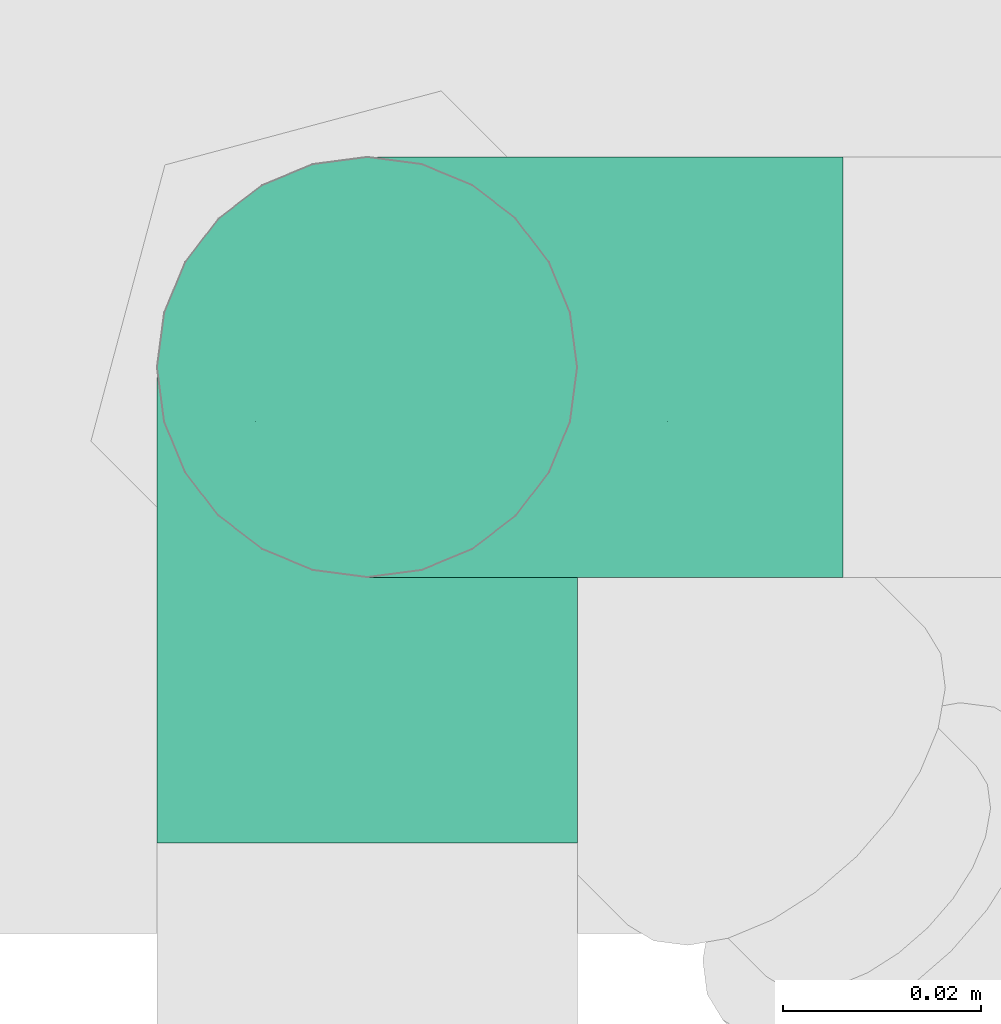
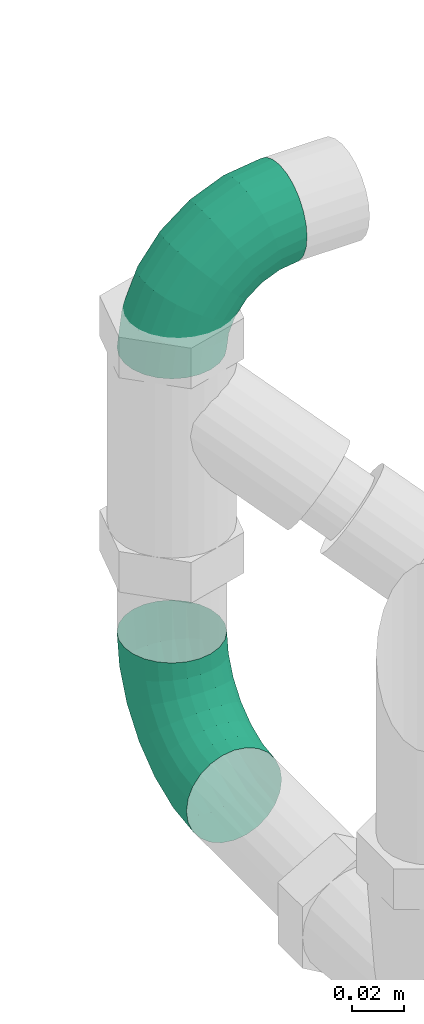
# One storey, part 256 of 374: 2 flow segments.
"""IFC2X3 building model written with IfcOpenShell, lengths in metres."""

from ifc_helpers import new_model, si_unit, direction, origin, place, context, subcontext, project, spatial, open_shell, surface_model, source, transform, mapped, element, save


model = new_model("IFC2X3")

# Units and contexts
model_context = context("Model", 3, precision=1e-05, world=origin(), true_north=direction((-0.4480736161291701, 0.8939966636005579)))
body_context = subcontext(model_context, "Body", "Model", "MODEL_VIEW")
ifc_project = project(units=[si_unit("LENGTHUNIT", "METRE"), si_unit("AREAUNIT", "SQUARE_METRE"), si_unit("VOLUMEUNIT", "CUBIC_METRE"), si_unit("PLANEANGLEUNIT", "RADIAN"), si_unit("THERMODYNAMICTEMPERATUREUNIT", "KELVIN"), si_unit("MASSUNIT", "GRAM", prefix="KILO"), si_unit("TIMEUNIT", "SECOND")], contexts=[model_context])

# Site, building, storey
site_placement = place(None, origin())
site = spatial("IfcSite", under=ifc_project, at=site_placement, Name="Site 1", CompositionType="ELEMENT")
building_placement = place(site_placement, origin())
building = spatial("IfcBuilding", under=site, at=building_placement, Name="Undefined", CompositionType="ELEMENT")
storey_placement = place(building_placement, origin())
storey = spatial("IfcBuildingStorey", under=building, at=storey_placement, Name="Rez de chauss\x8ee", CompositionType="ELEMENT", Elevation=0.0)

# Flow segments
shared_shape_1 = source(origin(), body_context, "Body", "SurfaceModel", [
    surface_model("IfcFaceBasedSurfaceModel", [(0.01806482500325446, 7.105427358e-15, 0.0), (0.017970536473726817, 0.005533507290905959, 0.0), (9.428852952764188e-05, 0.005533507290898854, 0.0), (0.0, 0.0, 0.0), (-0.017172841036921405, 0.00613233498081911, -0.004587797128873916), (-0.01744928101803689, 0.0006051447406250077, -0.004636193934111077), (-0.03265412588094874, 0.007289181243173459, -0.013450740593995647), (-0.0330938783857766, 0.0017741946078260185, -0.013592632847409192), (-0.045294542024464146, 0.008925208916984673, -0.02598483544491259), (-0.045867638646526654, 0.0034274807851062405, -0.02625895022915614), (-0.054232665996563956, 0.010928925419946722, -0.041335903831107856), (-0.05490005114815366, 0.005452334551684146, -0.04177195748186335), (-0.05885937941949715, 0.013163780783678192, -0.05845779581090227), (-0.059575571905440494, 0.007710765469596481, -0.05907446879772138), (0.01769409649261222, 0.010875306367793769, -0.0014203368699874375), (0.00037072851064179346, 0.010875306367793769, -0.0014203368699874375), (-0.016362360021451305, 0.011455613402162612, -0.005866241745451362), (-0.03136483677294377, 0.012576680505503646, -0.014455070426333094), (-0.04361430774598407, 0.014162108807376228, -0.026601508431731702), (-0.05227599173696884, 0.016103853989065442, -0.0414777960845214), (-0.05675960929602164, 0.018269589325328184, -0.05807013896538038), (0.017254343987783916, 0.015661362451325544, -0.0041642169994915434), (0.0008104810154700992, 0.015661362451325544, -0.004164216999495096), (-0.01507307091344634, 0.016212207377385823, -0.008384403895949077), (-0.029313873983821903, 0.01727635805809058, -0.016537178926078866), (-0.04094144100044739, 0.01878129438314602, -0.02806694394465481), (-0.049163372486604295, 0.02062445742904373, -0.042187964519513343), (-0.05341935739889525, 0.02268023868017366, -0.05793791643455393), (0.016681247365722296, 0.01956551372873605, -0.008044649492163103), (0.001383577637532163, 0.01956551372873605, -0.008044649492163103), (-0.01339283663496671, 0.020077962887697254, -0.011970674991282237), (-0.026641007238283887, 0.021067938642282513, -0.01955517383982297), (-0.03745809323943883, 0.02246797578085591, -0.03028127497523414), (-0.04510692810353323, 0.0241826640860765, -0.04341801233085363), (-0.04906625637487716, 0.026095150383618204, -0.05807013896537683), (0.016013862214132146, 0.022321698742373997, -0.012797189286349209), (0.0020509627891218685, 0.022321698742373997, -0.012797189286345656), (-0.011436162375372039, 0.02278943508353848, -0.016380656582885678), (-0.023528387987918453, 0.02369303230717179, -0.023303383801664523), (-0.03340164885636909, 0.024970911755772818, -0.03309359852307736), (-0.040383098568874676, 0.026535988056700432, -0.04508411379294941), (-0.04399696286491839, 0.028281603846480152, -0.05845779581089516), (0.015297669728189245, 0.023742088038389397, -0.018097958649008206), (0.00276715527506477, 0.023742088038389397, -0.018097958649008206), (-0.009336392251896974, 0.024161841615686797, -0.021313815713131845), (-0.02018813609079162, 0.02497274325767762, -0.0275263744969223), (-0.029048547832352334, 0.02611953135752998, -0.03631225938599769), (-0.03531380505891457, 0.027524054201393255, -0.04707272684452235), (-0.0385569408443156, 0.02909059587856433, -0.05907446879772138), (0.014581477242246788, 0.023729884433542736, -0.02358571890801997), (0.0034833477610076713, 0.023729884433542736, -0.02358571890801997), (-0.007236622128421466, 0.024101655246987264, -0.026433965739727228), (-0.016847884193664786, 0.02481986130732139, -0.03193635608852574), (-0.02469544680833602, 0.02583555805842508, -0.03971791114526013), (-0.0302445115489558, 0.027079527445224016, -0.04924833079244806), (-0.03311691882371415, 0.02846699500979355, -0.059878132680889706), (0.013914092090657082, 0.02228591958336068, -0.02888648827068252), (0.004150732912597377, 0.022285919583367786, -0.028886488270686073), (-0.005279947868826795, 0.022612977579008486, -0.031392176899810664), (-0.013735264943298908, 0.023244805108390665, -0.03623279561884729), (-0.020639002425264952, 0.02413834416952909, -0.04307846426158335), (-0.025520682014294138, 0.025232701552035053, -0.051462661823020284), (-0.028047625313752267, 0.026453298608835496, -0.060814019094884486), (0.013340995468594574, 0.01950859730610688, -0.03363902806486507), (0.0047238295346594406, 0.01950859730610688, -0.033639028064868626), (-0.0035997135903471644, 0.019797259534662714, -0.035850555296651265), (-0.011062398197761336, 0.0203549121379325, -0.04012289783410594), (-0.017155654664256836, 0.021143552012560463, -0.04616490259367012), (-0.02146423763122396, 0.022109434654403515, -0.05356481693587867), (-0.02369452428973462, 0.023186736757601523, -0.06181834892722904), (0.012901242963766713, 0.015587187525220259, -0.037519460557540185), (0.005163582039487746, 0.015587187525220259, -0.03751946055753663), (-0.0023104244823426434, 0.015846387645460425, -0.03950526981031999), (-0.009011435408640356, 0.016347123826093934, -0.043341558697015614), (-0.01448278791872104, 0.017055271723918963, -0.048766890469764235), (-0.018351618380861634, 0.017922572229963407, -0.05541153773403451), (-0.02035427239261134, 0.018889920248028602, -0.06282267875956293), (0.012624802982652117, 0.010788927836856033, -0.040263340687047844), (0.005440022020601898, 0.010788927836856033, -0.0402633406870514), (-0.0014999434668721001, 0.011029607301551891, -0.04210725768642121), (-0.007722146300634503, 0.01149456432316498, -0.045669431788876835), (-0.012802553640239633, 0.012152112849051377, -0.05070710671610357), (-0.0163949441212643, 0.012957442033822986, -0.056876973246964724), (-0.018254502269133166, 0.013855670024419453, -0.06375856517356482), (0.012530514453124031, 0.005440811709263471, -0.041683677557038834), (0.005534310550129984, 0.0054408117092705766, -0.041683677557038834), (-0.0012235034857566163, 0.005675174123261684, -0.04347919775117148), (-0.007282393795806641, 0.006127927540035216, -0.046947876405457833), (-0.012229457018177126, 0.0067682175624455, -0.05185332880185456), (-0.015727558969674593, 0.007552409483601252, -0.05786125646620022), (-0.01753830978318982, 0.008427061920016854, -0.0645622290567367), (0.012624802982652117, -9.269558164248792e-05, -0.04168367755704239), (0.005440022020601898, -9.269558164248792e-05, -0.04168367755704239), (-0.0014999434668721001, 0.00014798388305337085, -0.0435275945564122), (-0.007722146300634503, 0.0006129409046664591, -0.047089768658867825), (-0.012802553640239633, 0.001270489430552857, -0.05212744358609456), (-0.0163949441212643, 0.002075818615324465, -0.058297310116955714), (-0.018254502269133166, 0.0029740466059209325, -0.06517890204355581), (0.012901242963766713, -0.005434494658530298, -0.0402633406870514), (0.005163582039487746, -0.005434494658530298, -0.040263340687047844), (-0.0023104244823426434, -0.005175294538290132, -0.0422491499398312), (-0.009011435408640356, -0.004674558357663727, -0.046085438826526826), (-0.01448278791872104, -0.0039664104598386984, -0.051510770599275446), (-0.018351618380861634, -0.0030991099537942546, -0.05815541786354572), (-0.02035427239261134, -0.0021317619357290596, -0.06556655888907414), (0.013340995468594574, -0.010220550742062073, -0.03751946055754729), (0.0047238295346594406, -0.010220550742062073, -0.03751946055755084), (-0.0035997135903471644, -0.009931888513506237, -0.03973098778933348), (-0.011062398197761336, -0.009374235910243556, -0.04400333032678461), (-0.017155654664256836, -0.00858559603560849, -0.05004533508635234), (-0.02146423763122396, -0.007619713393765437, -0.057445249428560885), (-0.02369452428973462, -0.006542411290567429, -0.06569878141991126), (0.013914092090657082, -0.01412470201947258, -0.03363902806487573), (0.004150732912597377, -0.014124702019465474, -0.033639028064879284), (-0.005279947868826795, -0.013797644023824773, -0.036144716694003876), (-0.013735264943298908, -0.013165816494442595, -0.0409853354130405), (-0.020639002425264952, -0.012272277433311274, -0.04783100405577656), (-0.025520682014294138, -0.011177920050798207, -0.05621520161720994), (-0.028047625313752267, -0.009957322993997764, -0.0655665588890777), (0.014581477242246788, -0.01688088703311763, -0.028886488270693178), (0.0034833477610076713, -0.01688088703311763, -0.028886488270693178), (-0.007236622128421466, -0.016509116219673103, -0.031734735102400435), (-0.016847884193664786, -0.015790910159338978, -0.03723712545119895), (-0.02469544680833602, -0.014775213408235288, -0.04501868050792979), (-0.0302445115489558, -0.01353124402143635, -0.054549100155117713), (-0.03311691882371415, -0.012143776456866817, -0.06517890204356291), (0.015297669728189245, -0.01830127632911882, -0.02358571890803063), (0.00276715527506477, -0.01830127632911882, -0.02358571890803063), (-0.009336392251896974, -0.01788152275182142, -0.026801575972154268), (-0.02018813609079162, -0.017070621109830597, -0.033014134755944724), (-0.029048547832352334, -0.01592383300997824, -0.04180001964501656), (-0.03531380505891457, -0.014519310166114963, -0.05256048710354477), (-0.0385569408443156, -0.012952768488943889, -0.06456222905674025), (0.016013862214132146, -0.01828907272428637, -0.018097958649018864), (0.0020509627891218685, -0.01828907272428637, -0.018097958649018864), (-0.011436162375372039, -0.01782133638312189, -0.021681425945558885), (-0.023528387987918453, -0.016917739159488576, -0.02860415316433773), (-0.03340164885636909, -0.01563985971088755, -0.038394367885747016), (-0.040383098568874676, -0.014074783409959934, -0.05038488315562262), (-0.04399696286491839, -0.012329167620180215, -0.06375856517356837), (0.016681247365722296, -0.01684510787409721, -0.012797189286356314), (0.001383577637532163, -0.01684510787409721, -0.012797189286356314), (-0.01339283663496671, -0.016332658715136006, -0.01672321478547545), (-0.026641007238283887, -0.015342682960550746, -0.02430771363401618), (-0.03745809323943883, -0.01394264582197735, -0.03503381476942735), (-0.04510692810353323, -0.01222795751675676, -0.04817055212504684), (-0.04906625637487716, -0.010315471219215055, -0.06282267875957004), (0.017254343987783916, -0.014067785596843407, -0.008044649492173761), (0.0008104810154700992, -0.014067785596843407, -0.008044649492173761), (-0.01507307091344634, -0.013516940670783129, -0.012264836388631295), (-0.029313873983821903, -0.012452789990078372, -0.020417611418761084), (-0.04094144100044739, -0.010947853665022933, -0.03194737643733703), (-0.049163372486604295, -0.009104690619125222, -0.04606839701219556), (-0.05341935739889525, -0.007048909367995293, -0.06181834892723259), (0.01769409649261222, -0.010146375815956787, -0.004164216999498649), (0.00037072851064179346, -0.010146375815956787, -0.004164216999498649), (-0.016362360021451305, -0.009566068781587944, -0.008610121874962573), (-0.03136483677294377, -0.008445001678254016, -0.017198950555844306), (-0.04361430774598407, -0.006859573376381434, -0.029345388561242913), (-0.05227599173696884, -0.00491782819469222, -0.04422167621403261), (-0.05675960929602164, -0.002752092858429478, -0.060814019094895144), (0.017970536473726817, -0.0053481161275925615, -0.0014203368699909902), (9.428852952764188e-05, -0.005348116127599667, -0.001420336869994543), (-0.017172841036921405, -0.004749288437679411, -0.006008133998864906), (-0.03265412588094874, -0.0035924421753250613, -0.014871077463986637), (-0.045294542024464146, -0.001956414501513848, -0.02740517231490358), (-0.054232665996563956, 4.7302001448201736e-05, -0.04275624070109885), (-0.05885937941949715, 0.002282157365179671, -0.05987813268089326)], [open_shell([[[0, 1, 2, 3]], [[3, 2, 4, 5]], [[5, 4, 6, 7]], [[7, 6, 8, 9]], [[9, 8, 10, 11]], [[11, 10, 12, 13]], [[1, 14, 15, 2]], [[2, 15, 16, 4]], [[4, 16, 17, 6]], [[6, 17, 18, 8]], [[8, 18, 19, 10]], [[10, 19, 20, 12]], [[14, 21, 22, 15]], [[15, 22, 23, 16]], [[16, 23, 24, 17]], [[17, 24, 25, 18]], [[18, 25, 26, 19]], [[19, 26, 27, 20]], [[21, 28, 29, 22]], [[22, 29, 30, 23]], [[23, 30, 31, 24]], [[24, 31, 32, 25]], [[25, 32, 33, 26]], [[26, 33, 34, 27]], [[28, 35, 36, 29]], [[29, 36, 37, 30]], [[30, 37, 38, 31]], [[31, 38, 39, 32]], [[32, 39, 40, 33]], [[33, 40, 41, 34]], [[35, 42, 43, 36]], [[36, 43, 44, 37]], [[37, 44, 45, 38]], [[38, 45, 46, 39]], [[39, 46, 47, 40]], [[40, 47, 48, 41]], [[42, 49, 50, 43]], [[43, 50, 51, 44]], [[44, 51, 52, 45]], [[45, 52, 53, 46]], [[46, 53, 54, 47]], [[47, 54, 55, 48]], [[49, 56, 57, 50]], [[50, 57, 58, 51]], [[51, 58, 59, 52]], [[52, 59, 60, 53]], [[53, 60, 61, 54]], [[54, 61, 62, 55]], [[56, 63, 64, 57]], [[57, 64, 65, 58]], [[58, 65, 66, 59]], [[59, 66, 67, 60]], [[60, 67, 68, 61]], [[61, 68, 69, 62]], [[63, 70, 71, 64]], [[64, 71, 72, 65]], [[65, 72, 73, 66]], [[66, 73, 74, 67]], [[67, 74, 75, 68]], [[68, 75, 76, 69]], [[70, 77, 78, 71]], [[71, 78, 79, 72]], [[72, 79, 80, 73]], [[73, 80, 81, 74]], [[74, 81, 82, 75]], [[75, 82, 83, 76]], [[77, 84, 85, 78]], [[78, 85, 86, 79]], [[79, 86, 87, 80]], [[80, 87, 88, 81]], [[81, 88, 89, 82]], [[82, 89, 90, 83]], [[84, 91, 92, 85]], [[85, 92, 93, 86]], [[86, 93, 94, 87]], [[87, 94, 95, 88]], [[88, 95, 96, 89]], [[89, 96, 97, 90]], [[91, 98, 99, 92]], [[92, 99, 100, 93]], [[93, 100, 101, 94]], [[94, 101, 102, 95]], [[95, 102, 103, 96]], [[96, 103, 104, 97]], [[98, 105, 106, 99]], [[99, 106, 107, 100]], [[100, 107, 108, 101]], [[101, 108, 109, 102]], [[102, 109, 110, 103]], [[103, 110, 111, 104]], [[105, 112, 113, 106]], [[106, 113, 114, 107]], [[107, 114, 115, 108]], [[108, 115, 116, 109]], [[109, 116, 117, 110]], [[110, 117, 118, 111]], [[112, 119, 120, 113]], [[113, 120, 121, 114]], [[114, 121, 122, 115]], [[115, 122, 123, 116]], [[116, 123, 124, 117]], [[117, 124, 125, 118]], [[119, 126, 127, 120]], [[120, 127, 128, 121]], [[121, 128, 129, 122]], [[122, 129, 130, 123]], [[123, 130, 131, 124]], [[124, 131, 132, 125]], [[126, 133, 134, 127]], [[127, 134, 135, 128]], [[128, 135, 136, 129]], [[129, 136, 137, 130]], [[130, 137, 138, 131]], [[131, 138, 139, 132]], [[133, 140, 141, 134]], [[134, 141, 142, 135]], [[135, 142, 143, 136]], [[136, 143, 144, 137]], [[137, 144, 145, 138]], [[138, 145, 146, 139]], [[140, 147, 148, 141]], [[141, 148, 149, 142]], [[142, 149, 150, 143]], [[143, 150, 151, 144]], [[144, 151, 152, 145]], [[145, 152, 153, 146]], [[147, 154, 155, 148]], [[148, 155, 156, 149]], [[149, 156, 157, 150]], [[150, 157, 158, 151]], [[151, 158, 159, 152]], [[152, 159, 160, 153]], [[154, 161, 162, 155]], [[155, 162, 163, 156]], [[156, 163, 164, 157]], [[157, 164, 165, 158]], [[158, 165, 166, 159]], [[159, 166, 167, 160]], [[161, 0, 3, 162]], [[162, 3, 5, 163]], [[163, 5, 7, 164]], [[164, 7, 9, 165]], [[165, 9, 11, 166]], [[166, 11, 13, 167]]])]),
])
flow_segment_1_placement = place(storey_placement, origin())
element("IfcFlowSegment", 1, at=flow_segment_1_placement, inside=storey, Name="Tube coudé", ObjectType="Tube coudé", context=body_context, shape_type="MappedRepresentation", body=[
    mapped(shared_shape_1, transform((52.45756201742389, 10.936879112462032, 0.8018409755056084), x_axis=(0.0, 0.13052619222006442, 0.9914448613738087), y_axis=(0.9915887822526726, -0.12832103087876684, 0.016893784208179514), z_axis=(0.12942830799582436, 0.983105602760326, -0.1294283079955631))),
])
shared_shape_2 = source(origin(), body_context, "Body", "SurfaceModel", [
    surface_model("IfcFaceBasedSurfaceModel", [(0.01806482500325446, 7.105427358e-15, 0.0), (0.017970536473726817, 0.005533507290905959, 0.0), (9.428852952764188e-05, 0.005533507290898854, 0.0), (0.0, 0.0, 0.0), (-0.017172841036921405, 0.00613233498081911, -0.004587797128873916), (-0.01744928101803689, 0.0006051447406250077, -0.004636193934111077), (-0.03265412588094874, 0.007289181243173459, -0.013450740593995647), (-0.0330938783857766, 0.0017741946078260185, -0.013592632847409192), (-0.045294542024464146, 0.008925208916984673, -0.02598483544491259), (-0.045867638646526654, 0.0034274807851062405, -0.02625895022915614), (-0.054232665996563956, 0.010928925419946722, -0.041335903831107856), (-0.05490005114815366, 0.005452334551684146, -0.04177195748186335), (-0.05885937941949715, 0.013163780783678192, -0.05845779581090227), (-0.059575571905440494, 0.007710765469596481, -0.05907446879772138), (0.01769409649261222, 0.010875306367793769, -0.0014203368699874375), (0.00037072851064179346, 0.010875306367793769, -0.0014203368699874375), (-0.016362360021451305, 0.011455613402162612, -0.005866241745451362), (-0.03136483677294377, 0.012576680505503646, -0.014455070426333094), (-0.04361430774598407, 0.014162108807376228, -0.026601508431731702), (-0.05227599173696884, 0.016103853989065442, -0.0414777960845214), (-0.05675960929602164, 0.018269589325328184, -0.05807013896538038), (0.017254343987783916, 0.015661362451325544, -0.0041642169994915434), (0.0008104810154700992, 0.015661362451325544, -0.004164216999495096), (-0.01507307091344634, 0.016212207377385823, -0.008384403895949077), (-0.029313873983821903, 0.01727635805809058, -0.016537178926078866), (-0.04094144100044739, 0.01878129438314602, -0.02806694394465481), (-0.049163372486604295, 0.02062445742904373, -0.042187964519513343), (-0.05341935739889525, 0.02268023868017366, -0.05793791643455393), (0.016681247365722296, 0.01956551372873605, -0.008044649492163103), (0.001383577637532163, 0.01956551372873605, -0.008044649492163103), (-0.01339283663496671, 0.020077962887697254, -0.011970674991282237), (-0.026641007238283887, 0.021067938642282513, -0.01955517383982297), (-0.03745809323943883, 0.02246797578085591, -0.03028127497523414), (-0.04510692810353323, 0.0241826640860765, -0.04341801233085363), (-0.04906625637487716, 0.026095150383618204, -0.05807013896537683), (0.016013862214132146, 0.022321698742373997, -0.012797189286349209), (0.0020509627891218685, 0.022321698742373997, -0.012797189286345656), (-0.011436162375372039, 0.02278943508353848, -0.016380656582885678), (-0.023528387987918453, 0.02369303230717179, -0.023303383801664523), (-0.03340164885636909, 0.024970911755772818, -0.03309359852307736), (-0.040383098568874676, 0.026535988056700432, -0.04508411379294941), (-0.04399696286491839, 0.028281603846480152, -0.05845779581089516), (0.015297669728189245, 0.023742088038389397, -0.018097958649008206), (0.00276715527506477, 0.023742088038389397, -0.018097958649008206), (-0.009336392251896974, 0.024161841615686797, -0.021313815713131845), (-0.02018813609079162, 0.02497274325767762, -0.0275263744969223), (-0.029048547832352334, 0.02611953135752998, -0.03631225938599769), (-0.03531380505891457, 0.027524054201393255, -0.04707272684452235), (-0.0385569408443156, 0.02909059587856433, -0.05907446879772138), (0.014581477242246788, 0.023729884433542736, -0.02358571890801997), (0.0034833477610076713, 0.023729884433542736, -0.02358571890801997), (-0.007236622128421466, 0.024101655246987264, -0.026433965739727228), (-0.016847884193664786, 0.02481986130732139, -0.03193635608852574), (-0.02469544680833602, 0.02583555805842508, -0.03971791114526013), (-0.0302445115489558, 0.027079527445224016, -0.04924833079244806), (-0.03311691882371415, 0.02846699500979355, -0.059878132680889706), (0.013914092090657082, 0.02228591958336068, -0.02888648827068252), (0.004150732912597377, 0.022285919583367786, -0.028886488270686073), (-0.005279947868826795, 0.022612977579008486, -0.031392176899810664), (-0.013735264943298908, 0.023244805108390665, -0.03623279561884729), (-0.020639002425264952, 0.02413834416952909, -0.04307846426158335), (-0.025520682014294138, 0.025232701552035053, -0.051462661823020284), (-0.028047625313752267, 0.026453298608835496, -0.060814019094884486), (0.013340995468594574, 0.01950859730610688, -0.03363902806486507), (0.0047238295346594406, 0.01950859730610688, -0.033639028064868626), (-0.0035997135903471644, 0.019797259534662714, -0.035850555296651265), (-0.011062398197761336, 0.0203549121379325, -0.04012289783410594), (-0.017155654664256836, 0.021143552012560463, -0.04616490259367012), (-0.02146423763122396, 0.022109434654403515, -0.05356481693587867), (-0.02369452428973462, 0.023186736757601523, -0.06181834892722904), (0.012901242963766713, 0.015587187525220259, -0.037519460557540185), (0.005163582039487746, 0.015587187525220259, -0.03751946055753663), (-0.0023104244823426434, 0.015846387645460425, -0.03950526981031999), (-0.009011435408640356, 0.016347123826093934, -0.043341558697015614), (-0.01448278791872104, 0.017055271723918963, -0.048766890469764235), (-0.018351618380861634, 0.017922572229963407, -0.05541153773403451), (-0.02035427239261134, 0.018889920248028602, -0.06282267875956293), (0.012624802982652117, 0.010788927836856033, -0.040263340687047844), (0.005440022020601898, 0.010788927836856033, -0.0402633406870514), (-0.0014999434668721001, 0.011029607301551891, -0.04210725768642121), (-0.007722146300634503, 0.01149456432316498, -0.045669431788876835), (-0.012802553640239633, 0.012152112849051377, -0.05070710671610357), (-0.0163949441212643, 0.012957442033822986, -0.056876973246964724), (-0.018254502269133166, 0.013855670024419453, -0.06375856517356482), (0.012530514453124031, 0.005440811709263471, -0.041683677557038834), (0.005534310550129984, 0.0054408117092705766, -0.041683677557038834), (-0.0012235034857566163, 0.005675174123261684, -0.04347919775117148), (-0.007282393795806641, 0.006127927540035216, -0.046947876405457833), (-0.012229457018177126, 0.0067682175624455, -0.05185332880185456), (-0.015727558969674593, 0.007552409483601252, -0.05786125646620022), (-0.01753830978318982, 0.008427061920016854, -0.0645622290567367), (0.012624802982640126, -9.269558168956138e-05, -0.04168367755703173), (0.005440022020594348, -9.269558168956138e-05, -0.04168367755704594), (-0.001499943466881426, 0.00014798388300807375, -0.043527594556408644), (-0.007722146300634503, 0.0006129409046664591, -0.047089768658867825), (-0.012802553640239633, 0.001270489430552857, -0.05212744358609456), (-0.0163949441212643, 0.002075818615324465, -0.058297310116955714), (-0.018254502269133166, 0.0029740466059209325, -0.06517890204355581), (0.012901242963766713, -0.005434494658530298, -0.0402633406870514), (0.005163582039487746, -0.005434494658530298, -0.040263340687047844), (-0.0023104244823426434, -0.005175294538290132, -0.0422491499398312), (-0.009011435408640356, -0.004674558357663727, -0.046085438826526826), (-0.01448278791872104, -0.0039664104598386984, -0.051510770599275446), (-0.018351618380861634, -0.0030991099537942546, -0.05815541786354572), (-0.02035427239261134, -0.0021317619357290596, -0.06556655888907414), (0.013340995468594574, -0.010220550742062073, -0.03751946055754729), (0.0047238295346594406, -0.010220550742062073, -0.03751946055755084), (-0.0035997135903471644, -0.009931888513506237, -0.03973098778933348), (-0.011062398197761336, -0.009374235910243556, -0.04400333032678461), (-0.017155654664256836, -0.00858559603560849, -0.05004533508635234), (-0.02146423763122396, -0.007619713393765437, -0.057445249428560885), (-0.02369452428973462, -0.006542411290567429, -0.06569878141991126), (0.013914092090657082, -0.01412470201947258, -0.03363902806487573), (0.004150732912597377, -0.014124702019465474, -0.033639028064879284), (-0.005279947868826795, -0.013797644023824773, -0.036144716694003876), (-0.013735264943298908, -0.013165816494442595, -0.0409853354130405), (-0.020639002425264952, -0.012272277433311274, -0.04783100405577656), (-0.025520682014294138, -0.011177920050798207, -0.05621520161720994), (-0.028047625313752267, -0.009957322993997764, -0.0655665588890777), (0.014581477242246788, -0.01688088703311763, -0.028886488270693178), (0.0034833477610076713, -0.01688088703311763, -0.028886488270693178), (-0.007236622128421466, -0.016509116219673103, -0.031734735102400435), (-0.016847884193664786, -0.015790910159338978, -0.03723712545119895), (-0.02469544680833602, -0.014775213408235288, -0.04501868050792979), (-0.0302445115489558, -0.01353124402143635, -0.054549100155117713), (-0.03311691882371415, -0.012143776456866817, -0.06517890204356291), (0.015297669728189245, -0.01830127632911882, -0.02358571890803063), (0.00276715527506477, -0.01830127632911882, -0.02358571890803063), (-0.009336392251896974, -0.01788152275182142, -0.026801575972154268), (-0.02018813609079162, -0.017070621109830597, -0.033014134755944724), (-0.029048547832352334, -0.01592383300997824, -0.04180001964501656), (-0.03531380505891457, -0.014519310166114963, -0.05256048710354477), (-0.0385569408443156, -0.012952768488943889, -0.06456222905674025), (0.016013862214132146, -0.01828907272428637, -0.018097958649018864), (0.0020509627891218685, -0.01828907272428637, -0.018097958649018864), (-0.011436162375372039, -0.01782133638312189, -0.021681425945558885), (-0.023528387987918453, -0.016917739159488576, -0.02860415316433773), (-0.03340164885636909, -0.01563985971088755, -0.038394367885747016), (-0.040383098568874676, -0.014074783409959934, -0.05038488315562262), (-0.04399696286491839, -0.012329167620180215, -0.06375856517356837), (0.016681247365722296, -0.01684510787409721, -0.012797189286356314), (0.001383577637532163, -0.01684510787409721, -0.012797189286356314), (-0.01339283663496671, -0.016332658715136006, -0.01672321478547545), (-0.026641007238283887, -0.015342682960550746, -0.02430771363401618), (-0.03745809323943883, -0.01394264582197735, -0.03503381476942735), (-0.04510692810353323, -0.01222795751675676, -0.04817055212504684), (-0.04906625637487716, -0.010315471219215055, -0.06282267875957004), (0.017254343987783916, -0.014067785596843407, -0.008044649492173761), (0.0008104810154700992, -0.014067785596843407, -0.008044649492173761), (-0.01507307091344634, -0.013516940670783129, -0.012264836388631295), (-0.029313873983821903, -0.012452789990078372, -0.020417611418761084), (-0.04094144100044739, -0.010947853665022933, -0.03194737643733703), (-0.049163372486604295, -0.009104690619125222, -0.04606839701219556), (-0.05341935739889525, -0.007048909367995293, -0.06181834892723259), (0.01769409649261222, -0.010146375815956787, -0.004164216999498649), (0.00037072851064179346, -0.010146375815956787, -0.004164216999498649), (-0.016362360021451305, -0.009566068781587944, -0.008610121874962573), (-0.03136483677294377, -0.008445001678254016, -0.017198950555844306), (-0.04361430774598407, -0.006859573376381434, -0.029345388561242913), (-0.05227599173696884, -0.00491782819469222, -0.04422167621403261), (-0.05675960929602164, -0.002752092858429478, -0.060814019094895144), (0.017970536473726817, -0.0053481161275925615, -0.0014203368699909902), (9.428852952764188e-05, -0.005348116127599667, -0.001420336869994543), (-0.017172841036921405, -0.004749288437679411, -0.006008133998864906), (-0.03265412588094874, -0.0035924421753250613, -0.014871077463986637), (-0.045294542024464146, -0.001956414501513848, -0.02740517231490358), (-0.05423266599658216, 4.730200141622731e-05, -0.04275624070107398), (-0.05885937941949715, 0.002282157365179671, -0.05987813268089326)], [open_shell([[[0, 1, 2, 3]], [[3, 2, 4, 5]], [[5, 4, 6, 7]], [[7, 6, 8, 9]], [[9, 8, 10, 11]], [[11, 10, 12, 13]], [[1, 14, 15, 2]], [[2, 15, 16, 4]], [[4, 16, 17, 6]], [[6, 17, 18, 8]], [[8, 18, 19, 10]], [[10, 19, 20, 12]], [[14, 21, 22, 15]], [[15, 22, 23, 16]], [[16, 23, 24, 17]], [[17, 24, 25, 18]], [[18, 25, 26, 19]], [[19, 26, 27, 20]], [[21, 28, 29, 22]], [[22, 29, 30, 23]], [[23, 30, 31, 24]], [[24, 31, 32, 25]], [[25, 32, 33, 26]], [[26, 33, 34, 27]], [[28, 35, 36, 29]], [[29, 36, 37, 30]], [[30, 37, 38, 31]], [[31, 38, 39, 32]], [[32, 39, 40, 33]], [[33, 40, 41, 34]], [[35, 42, 43, 36]], [[36, 43, 44, 37]], [[37, 44, 45, 38]], [[38, 45, 46, 39]], [[39, 46, 47, 40]], [[40, 47, 48, 41]], [[42, 49, 50, 43]], [[43, 50, 51, 44]], [[44, 51, 52, 45]], [[45, 52, 53, 46]], [[46, 53, 54, 47]], [[47, 54, 55, 48]], [[49, 56, 57, 50]], [[50, 57, 58, 51]], [[51, 58, 59, 52]], [[52, 59, 60, 53]], [[53, 60, 61, 54]], [[54, 61, 62, 55]], [[56, 63, 64, 57]], [[57, 64, 65, 58]], [[58, 65, 66, 59]], [[59, 66, 67, 60]], [[60, 67, 68, 61]], [[61, 68, 69, 62]], [[63, 70, 71, 64]], [[64, 71, 72, 65]], [[65, 72, 73, 66]], [[66, 73, 74, 67]], [[67, 74, 75, 68]], [[68, 75, 76, 69]], [[70, 77, 78, 71]], [[71, 78, 79, 72]], [[72, 79, 80, 73]], [[73, 80, 81, 74]], [[74, 81, 82, 75]], [[75, 82, 83, 76]], [[77, 84, 85, 78]], [[78, 85, 86, 79]], [[79, 86, 87, 80]], [[80, 87, 88, 81]], [[81, 88, 89, 82]], [[82, 89, 90, 83]], [[84, 91, 92, 85]], [[85, 92, 93, 86]], [[86, 93, 94, 87]], [[87, 94, 95, 88]], [[88, 95, 96, 89]], [[89, 96, 97, 90]], [[91, 98, 99, 92]], [[92, 99, 100, 93]], [[93, 100, 101, 94]], [[94, 101, 102, 95]], [[95, 102, 103, 96]], [[96, 103, 104, 97]], [[98, 105, 106, 99]], [[99, 106, 107, 100]], [[100, 107, 108, 101]], [[101, 108, 109, 102]], [[102, 109, 110, 103]], [[103, 110, 111, 104]], [[105, 112, 113, 106]], [[106, 113, 114, 107]], [[107, 114, 115, 108]], [[108, 115, 116, 109]], [[109, 116, 117, 110]], [[110, 117, 118, 111]], [[112, 119, 120, 113]], [[113, 120, 121, 114]], [[114, 121, 122, 115]], [[115, 122, 123, 116]], [[116, 123, 124, 117]], [[117, 124, 125, 118]], [[119, 126, 127, 120]], [[120, 127, 128, 121]], [[121, 128, 129, 122]], [[122, 129, 130, 123]], [[123, 130, 131, 124]], [[124, 131, 132, 125]], [[126, 133, 134, 127]], [[127, 134, 135, 128]], [[128, 135, 136, 129]], [[129, 136, 137, 130]], [[130, 137, 138, 131]], [[131, 138, 139, 132]], [[133, 140, 141, 134]], [[134, 141, 142, 135]], [[135, 142, 143, 136]], [[136, 143, 144, 137]], [[137, 144, 145, 138]], [[138, 145, 146, 139]], [[140, 147, 148, 141]], [[141, 148, 149, 142]], [[142, 149, 150, 143]], [[143, 150, 151, 144]], [[144, 151, 152, 145]], [[145, 152, 153, 146]], [[147, 154, 155, 148]], [[148, 155, 156, 149]], [[149, 156, 157, 150]], [[150, 157, 158, 151]], [[151, 158, 159, 152]], [[152, 159, 160, 153]], [[154, 161, 162, 155]], [[155, 162, 163, 156]], [[156, 163, 164, 157]], [[157, 164, 165, 158]], [[158, 165, 166, 159]], [[159, 166, 167, 160]], [[161, 0, 3, 162]], [[162, 3, 5, 163]], [[163, 5, 7, 164]], [[164, 7, 9, 165]], [[165, 9, 11, 166]], [[166, 11, 13, 167]]])]),
])
flow_segment_2_placement = place(storey_placement, origin())
element("IfcFlowSegment", 2, at=flow_segment_2_placement, inside=storey, Name="Tube coudé", ObjectType="Tube coudé", context=body_context, shape_type="MappedRepresentation", body=[
    mapped(shared_shape_2, transform((52.43871995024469, 10.918037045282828, 0.971467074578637), x_axis=(-0.13052619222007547, 0.0, -0.9914448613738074), y_axis=(0.12832103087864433, -0.9915887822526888, -0.016893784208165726), z_axis=(-0.9831056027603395, -0.12942830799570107, 0.1294283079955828))),
])

save(model, "model.ifc")
